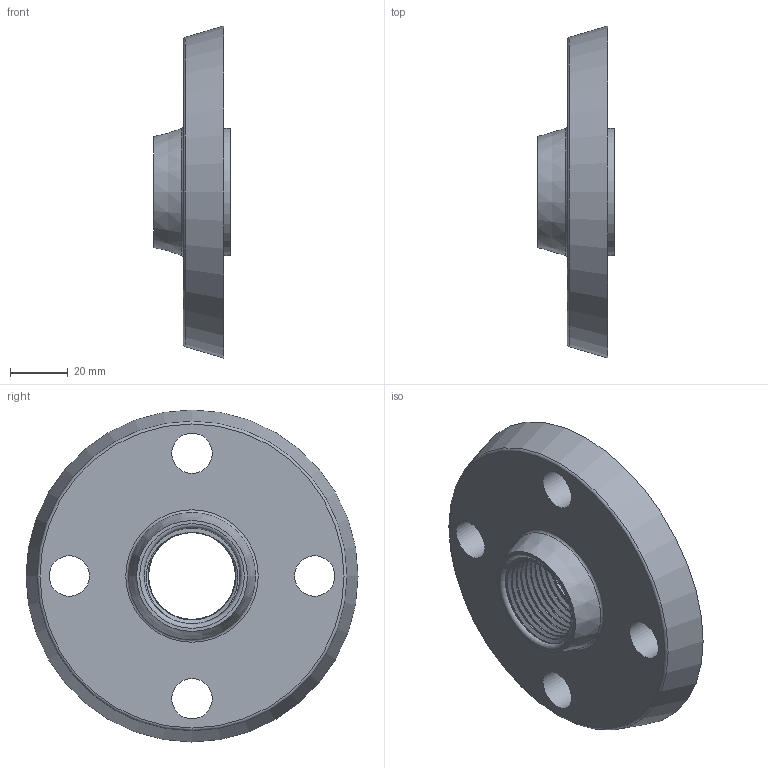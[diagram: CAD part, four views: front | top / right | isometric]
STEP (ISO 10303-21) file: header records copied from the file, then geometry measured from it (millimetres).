
FILE_DESCRIPTION(/* description */ (''),/* implementation_level */ '2;1');
FILE_NAME(/* name */ 'C:\Users\Gabriele\Desktop\disegni 3D\FF01\FF010320.ipt.stp',/* time_stamp */ '2017-01-25T17:53:30+01:00',/* author */ ('Gabriele'),/* organization */ (''),/* preprocessor_version */ 'ST-DEVELOPER v16.5',/* originating_system */ 'Autodesk Inventor 2017',/* authorisation */ '');
FILE_SCHEMA (('AUTOMOTIVE_DESIGN { 1 0 10303 214 3 1 1 }'));
Length unit declared in the file: millimetre
Products named in the file (1): FF010320
Bounding box: 26.5 x 115 x 115 mm (x, y, z)
Volume: 102339.4 mm3; surface area: 41547.6 mm2
Topology: 2 solids, 2 shells, 443 faces, 919 edges, 505 vertices
Faces by surface type: torus 167, cylinder 159, sphere 64, plane 45, bspline 6, cone 2
Full cylindrical faces by diameter (mm): 14 x4, 30 x1, 32 x1, 33.25 x2, 34 x1, 36 x1, 38 x1, 40 x1, 42 x1, 44 x1
Entity records: 15739 total; most frequent: CARTESIAN_POINT 6006, DIRECTION 2430, ORIENTED_EDGE 1784, AXIS2_PLACEMENT_3D 1119, EDGE_CURVE 892, CIRCLE 681, EDGE_LOOP 503, VERTEX_POINT 501
